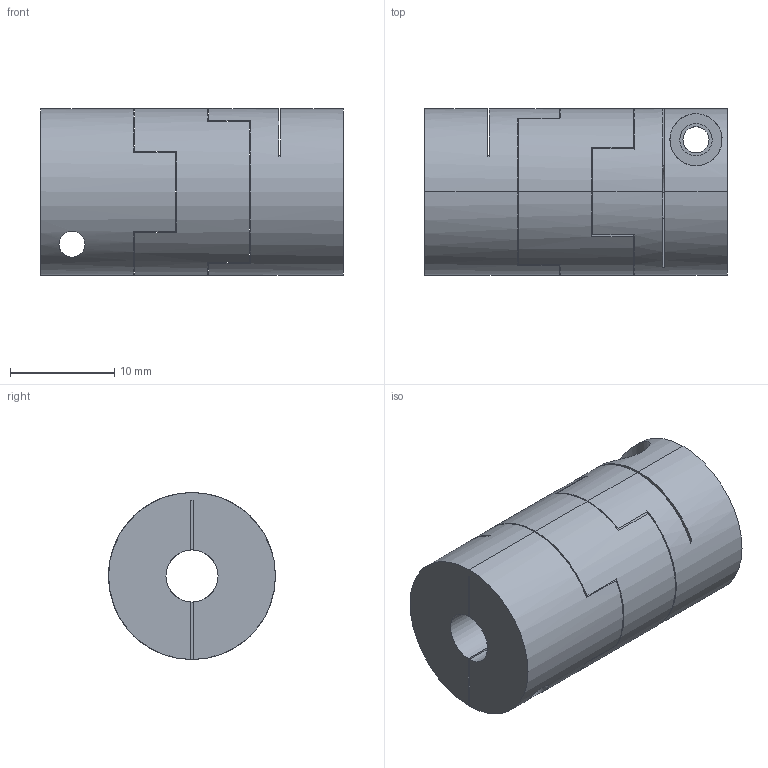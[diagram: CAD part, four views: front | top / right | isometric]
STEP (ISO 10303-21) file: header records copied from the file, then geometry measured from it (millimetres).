
FILE_DESCRIPTION (( 'STEP AP203' ), '1' );
FILE_NAME ('SOL-16C.STEP', '2009-10-01T14:35:03', ( 'USER' ), ( 'HOME' ), 'SwSTEP 2.0', 'SolidWorks 2007', '' );
FILE_SCHEMA (( 'CONFIG_CONTROL_DESIGN' ));
Length unit declared in the file: millimetre
Products named in the file (1): SOL-16C
Bounding box: 29 x 16 x 16 mm (x, y, z)
Volume: 4912.6 mm3; surface area: 4103.8 mm2
Topology: 3 solids, 3 shells, 65 faces, 177 edges, 118 vertices
Faces by surface type: plane 38, cylinder 27
Entity records: 2372 total; most frequent: CARTESIAN_POINT 565, DIRECTION 373, ORIENTED_EDGE 354, EDGE_CURVE 177, AXIS2_PLACEMENT_3D 138, VERTEX_POINT 118, VECTOR 97, LINE 97
